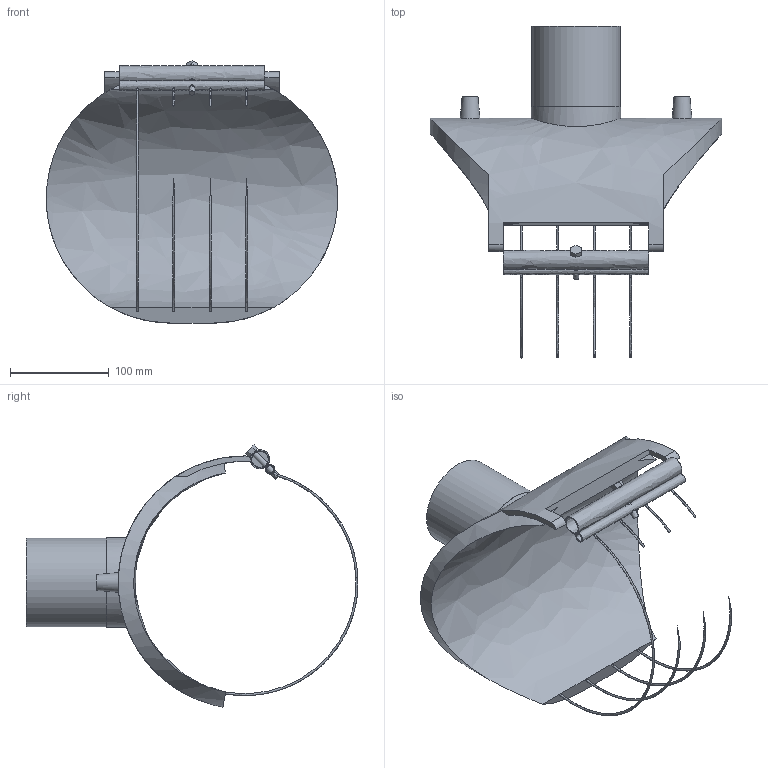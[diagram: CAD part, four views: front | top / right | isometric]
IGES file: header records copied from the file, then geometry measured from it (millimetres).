
Global section: file name: 4958X4225090T; native system: Autodesk Inventor 2021; preprocessor: unknown; author: KIM; date: 20250507.121531; units: millimetre
Bounding box: 295 x 336 x 265.38 mm (x, y, z)
Volume: 1474915.2 mm3; surface area: 270811.3 mm2
Topology: 1 solids, 1 shells, 62 faces, 187 edges, 126 vertices
Faces by surface type: bspline 62
